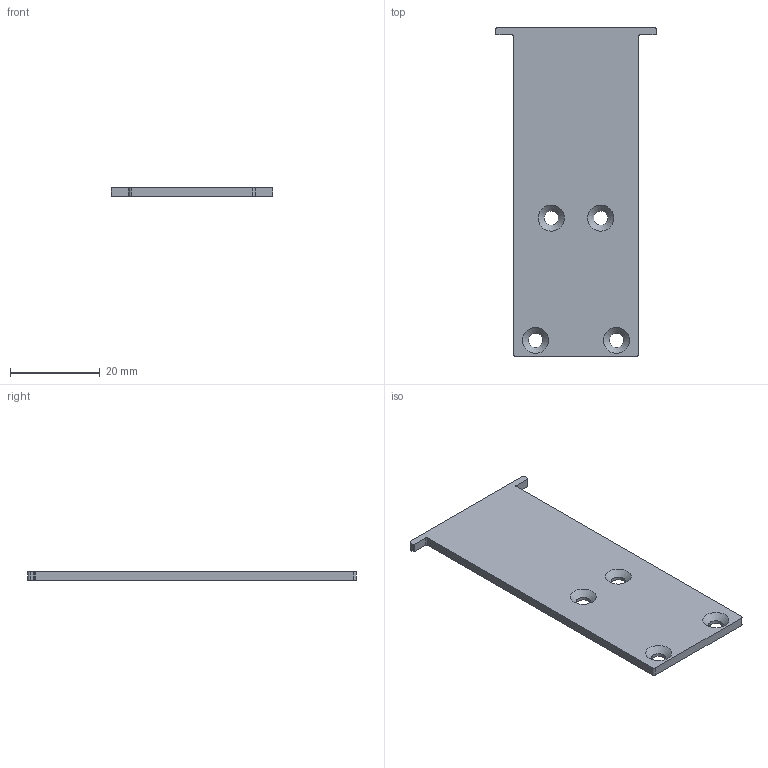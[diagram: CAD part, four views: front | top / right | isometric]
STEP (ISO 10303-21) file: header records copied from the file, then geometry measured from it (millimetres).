
FILE_DESCRIPTION(/* description */ ('Unknown'),/* implementation_level */ '2;1');
FILE_NAME(/* name */ '98876',/* time_stamp */ '2023-02-07T04:37:56-05:00',/* author */ ('Unknown'),/* organization */ ('Unknown'),/* preprocessor_version */ 'ST-DEVELOPER v18.1',/* originating_system */ 'Solid Edge',/* authorisation */ 'Unknown');
FILE_SCHEMA (('AUTOMOTIVE_DESIGN {1 0 10303 214 3 1 1}'));
Length unit declared in the file: millimetre
Products named in the file (1): LED-TAP173
Bounding box: 36 x 73 x 2 mm (x, y, z)
Volume: 4004 mm3; surface area: 4539.4 mm2
Topology: 1 solids, 1 shells, 26 faces, 72 edges, 48 vertices
Faces by surface type: cylinder 12, plane 10, cone 4
Full cylindrical faces by diameter (mm): 3.2 x4
Entity records: 814 total; most frequent: DIRECTION 142, CARTESIAN_POINT 131, ORIENTED_EDGE 120, EDGE_CURVE 60, AXIS2_PLACEMENT_3D 55, VERTEX_POINT 44, EDGE_LOOP 42, FACE_BOUND 42
